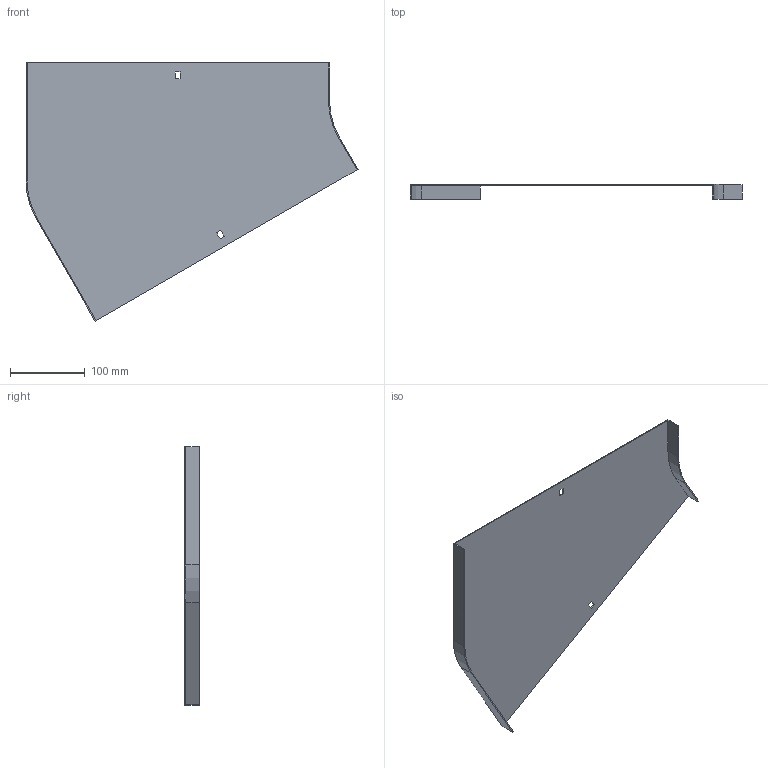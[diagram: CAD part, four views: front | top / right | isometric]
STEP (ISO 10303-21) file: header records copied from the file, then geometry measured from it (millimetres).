
FILE_DESCRIPTION (( 'STEP AP214' ), '1' );
FILE_NAME ('12N1R400.step', '2025-02-21T09:20:26', ( '' ), ( '' ), 'SwSTEP 2.0', 'SolidWorks 2023', '' );
FILE_SCHEMA (( 'AUTOMOTIVE_DESIGN' ));
Length unit declared in the file: millimetre
Products named in the file (1): 12N1R400
Bounding box: 445.2 x 20 x 346.05 mm (x, y, z)
Volume: 174137 mm3; surface area: 234389.5 mm2
Topology: 1 solids, 1 shells, 26 faces, 72 edges, 48 vertices
Faces by surface type: plane 22, cylinder 4
Entity records: 855 total; most frequent: CARTESIAN_POINT 147, ORIENTED_EDGE 144, DIRECTION 134, EDGE_CURVE 72, VECTOR 64, LINE 64, VERTEX_POINT 48, AXIS2_PLACEMENT_3D 35
